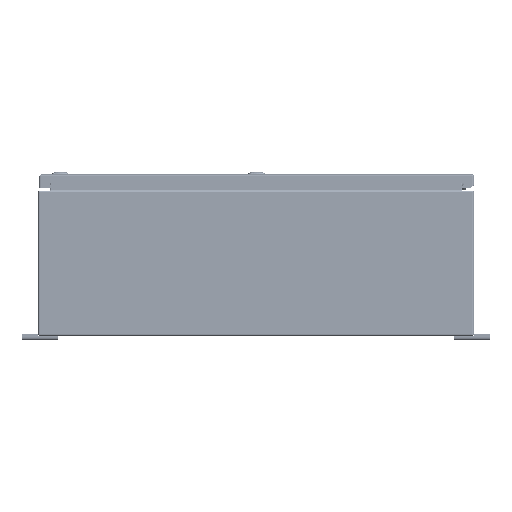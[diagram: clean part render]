
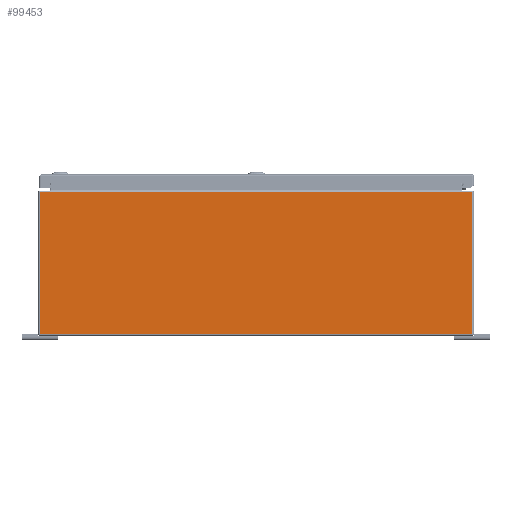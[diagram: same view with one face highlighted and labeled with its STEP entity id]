
A CAD part, left-side view. The second image highlights one B-rep face of the part: STEP entity #99453.
In plain terms, the highlighted planar face has unit normal (-1, 0, 0).
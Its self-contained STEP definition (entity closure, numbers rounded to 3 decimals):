
#5766=PLANE('',#106653);
#8375=LINE('',#142479,#16305);
#8376=LINE('',#142483,#16306);
#8377=LINE('',#142485,#16307);
#8378=LINE('',#142487,#16308);
#8379=LINE('',#142489,#16309);
#8380=LINE('',#142490,#16310);
#16305=VECTOR('',#116076,0.394);
#16306=VECTOR('',#116081,0.394);
#16307=VECTOR('',#116082,0.394);
#16308=VECTOR('',#116083,0.394);
#16309=VECTOR('',#116084,0.394);
#16310=VECTOR('',#116085,0.394);
#25804=FACE_OUTER_BOUND('',#31732,.T.);
#31732=EDGE_LOOP('',(#67709,#67710,#67711,#67712,#67713,#67714));
#42289=VERTEX_POINT('',#142461);
#42296=VERTEX_POINT('',#142478);
#42297=VERTEX_POINT('',#142482);
#42298=VERTEX_POINT('',#142484);
#42299=VERTEX_POINT('',#142486);
#42300=VERTEX_POINT('',#142488);
#52182=EDGE_CURVE('',#42289,#42296,#8375,.T.);
#52184=EDGE_CURVE('',#42297,#42289,#8376,.T.);
#52185=EDGE_CURVE('',#42297,#42298,#8377,.T.);
#52186=EDGE_CURVE('',#42299,#42298,#8378,.T.);
#52187=EDGE_CURVE('',#42300,#42299,#8379,.T.);
#52188=EDGE_CURVE('',#42300,#42296,#8380,.T.);
#67709=ORIENTED_EDGE('',*,*,#52184,.F.);
#67710=ORIENTED_EDGE('',*,*,#52185,.T.);
#67711=ORIENTED_EDGE('',*,*,#52186,.F.);
#67712=ORIENTED_EDGE('',*,*,#52187,.F.);
#67713=ORIENTED_EDGE('',*,*,#52188,.T.);
#67714=ORIENTED_EDGE('',*,*,#52182,.F.);
#99453=ADVANCED_FACE('',(#25804),#5766,.F.);
#106653=AXIS2_PLACEMENT_3D('',#142481,#116079,#116080);
#116076=DIRECTION('',(0.,0.,-1.));
#116079=DIRECTION('center_axis',(1.,0.,0.));
#116080=DIRECTION('ref_axis',(0.,0.,-1.));
#116081=DIRECTION('',(0.,-1.,0.));
#116082=DIRECTION('',(0.,1.,0.));
#116083=DIRECTION('',(0.,-1.,0.));
#116084=DIRECTION('',(0.,0.,1.));
#116085=DIRECTION('',(0.,-1.,0.));
#142461=CARTESIAN_POINT('',(-30.,-14.901,9.901));
#142478=CARTESIAN_POINT('',(-30.,-14.901,0.099));
#142479=CARTESIAN_POINT('',(-30.,-14.901,5.));
#142481=CARTESIAN_POINT('Origin',(-30.,0.,5.));
#142482=CARTESIAN_POINT('',(-30.,-14.126,9.901));
#142483=CARTESIAN_POINT('',(-30.,-7.475,9.901));
#142484=CARTESIAN_POINT('',(-30.,14.126,9.901));
#142485=CARTESIAN_POINT('',(-30.,7.455,9.901));
#142486=CARTESIAN_POINT('',(-30.,14.901,9.901));
#142487=CARTESIAN_POINT('',(-30.,-7.475,9.901));
#142488=CARTESIAN_POINT('',(-30.,14.901,0.099));
#142489=CARTESIAN_POINT('',(-30.,14.901,5.));
#142490=CARTESIAN_POINT('',(-30.,7.5,0.099));
